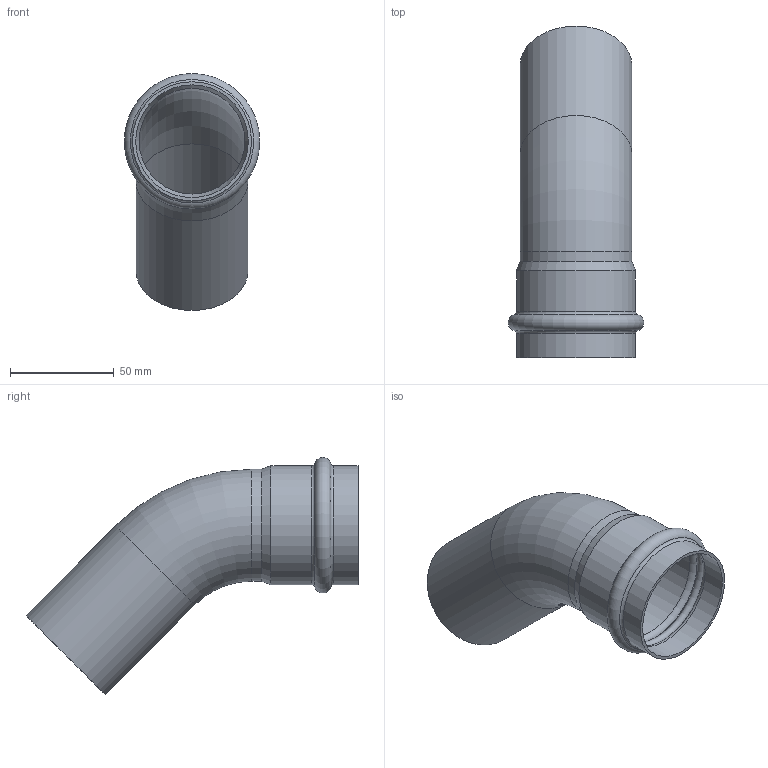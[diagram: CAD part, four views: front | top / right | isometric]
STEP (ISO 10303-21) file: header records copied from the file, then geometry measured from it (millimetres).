
FILE_DESCRIPTION(('STEP AP203'), '1');
FILE_NAME('覆.302661.015.000 捘 - VTi.958.I.005454', '', ('UNSPECIFIED'), ('UNSPECIFIED'), 'C3D Converter', 'C3D Toolkit', '');
FILE_SCHEMA(('CONFIG_CONTROL_DESIGN'));
Length unit declared in the file: millimetre
Products named in the file (1): ВР.302661.015.000 СБ
Bounding box: 65.38 x 160.17 x 114.36 mm (x, y, z)
Volume: 44752.6 mm3; surface area: 58007.2 mm2
Topology: 1 solids, 1 shells, 21 faces, 44 edges, 25 vertices
Faces by surface type: torus 9, cylinder 8, plane 2, cone 2
Full cylindrical faces by diameter (mm): 51 x2, 54 x2, 54.4 x2, 57.4 x2
Entity records: 508 total; most frequent: DIRECTION 94, CARTESIAN_POINT 72, ORIENTED_EDGE 50, AXIS2_PLACEMENT_3D 47, EDGE_LOOP 42, FACE_OUTER_BOUND 30, EDGE_CURVE 25, VERTEX_POINT 25
